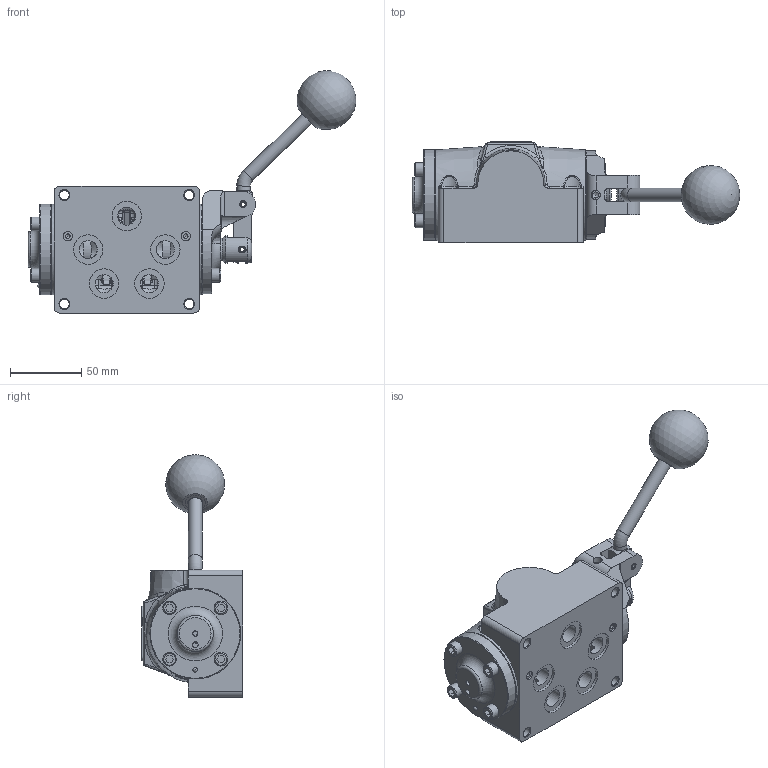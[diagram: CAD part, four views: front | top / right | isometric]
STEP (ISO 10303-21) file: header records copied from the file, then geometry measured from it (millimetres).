
FILE_DESCRIPTION(/* description */ (''),/* implementation_level */ '2;1');
FILE_NAME(/* name */ 'HX4PCRT.stp',/* time_stamp */ '2025-02-07T14:58:02-05:00',/* author */ ('rmckenna'),/* organization */ (''),/* preprocessor_version */ 'ST-DEVELOPER v20',/* originating_system */ 'Autodesk Inventor 2024',/* authorisation */ '');
FILE_SCHEMA (('AUTOMOTIVE_DESIGN { 1 0 10303 214 3 1 1 }'));
Products named in the file (1): Part43
Bounding box: 229.35 x 71.21 x 169.45 mm (x, y, z)
Volume: 560692.7 mm3; surface area: 124438 mm2
Topology: 1 solids, 25 shells, 1588 faces, 3873 edges, 2426 vertices
Faces by surface type: plane 535, bspline 321, cone 298, cylinder 282, torus 132, sphere 20
Full cylindrical faces by diameter (mm): 2.07 x2, 2.261 x2, 2.778 x2, 3.048 x2, 3.175 x2, 3.683 x2, 3.969 x1, 4.75 x2, 4.763 x2, 4.978 x8, 6.35 x10, 6.401 x2, 6.629 x4, 7.137 x8, 7.144 x8, 8.382 x1, 9.525 x12, 9.906 x2, 11.328 x1, 11.481 x1, 12.7 x7, 12.827 x3, 13.868 x1, 18.999 x3, 20.625 x5, 21.031 x1, 25.4 x1, 28.194 x3, 28.219 x2, 28.296 x12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
Entity records: 61360 total; most frequent: CARTESIAN_POINT 24683, ORIENTED_EDGE 7678, DIRECTION 6495, EDGE_CURVE 3839, AXIS2_PLACEMENT_3D 2546, VERTEX_POINT 2426, EDGE_LOOP 1775, STYLED_ITEM 1589
